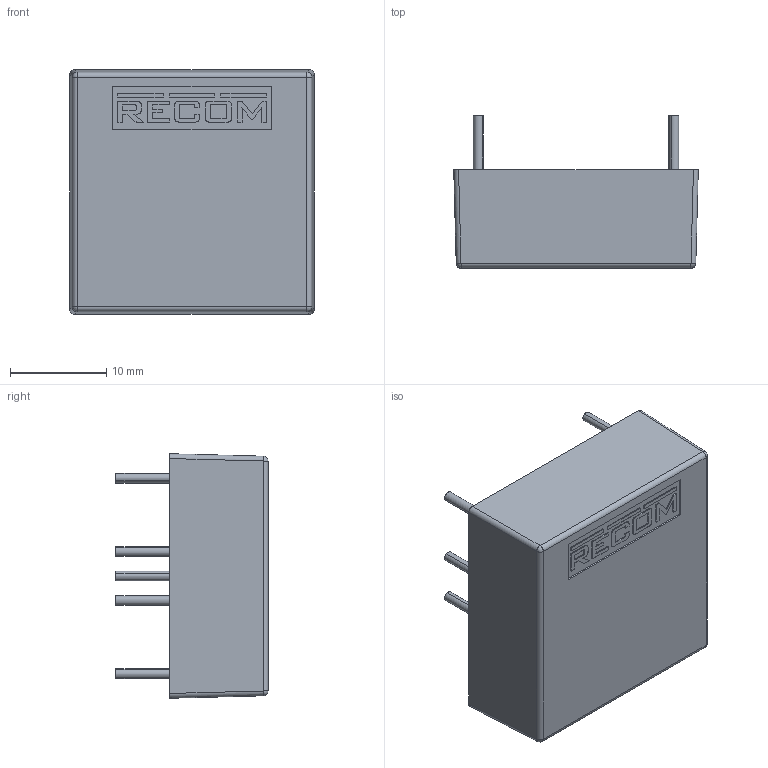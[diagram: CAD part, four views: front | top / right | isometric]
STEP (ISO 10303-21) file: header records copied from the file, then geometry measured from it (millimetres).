
FILE_DESCRIPTION (( 'STEP AP214' ), '1' );
FILE_NAME ('REC6K-AW V1.0.STEP', '2024-09-20T05:37:55', ( '' ), ( '' ), 'SwSTEP 2.0', 'SolidWorks 2024', '' );
FILE_SCHEMA (( 'AUTOMOTIVE_DESIGN' ));
Length unit declared in the file: millimetre
Products named in the file (5): REC6K-AW 下盖 孔径1.15_默认; REC6K-AW V1.0; REC6K-AW 上盖_默认; PCB_默认; 插针_Standard
Assembly tree (9 placements, depth 2):
  REC6K-AW V1.0
    REC6K-AW 上盖_默认
    PCB_默认
    REC6K-AW 下盖 孔径1.15_默认
    插针_Standard  x6
Bounding box: 25.4 x 15.8 x 25.4 mm (x, y, z)
Volume: 2045.4 mm3; surface area: 5843.3 mm2
Topology: 9 solids, 9 shells, 400 faces, 1062 edges, 704 vertices
Faces by surface type: plane 244, cylinder 85, bspline 57, cone 10, sphere 4
Entity records: 12833 total; most frequent: CARTESIAN_POINT 3297, ORIENTED_EDGE 1944, DIRECTION 1499, EDGE_CURVE 972, VECTOR 709, LINE 709, VERTEX_POINT 644, AXIS2_PLACEMENT_3D 395
